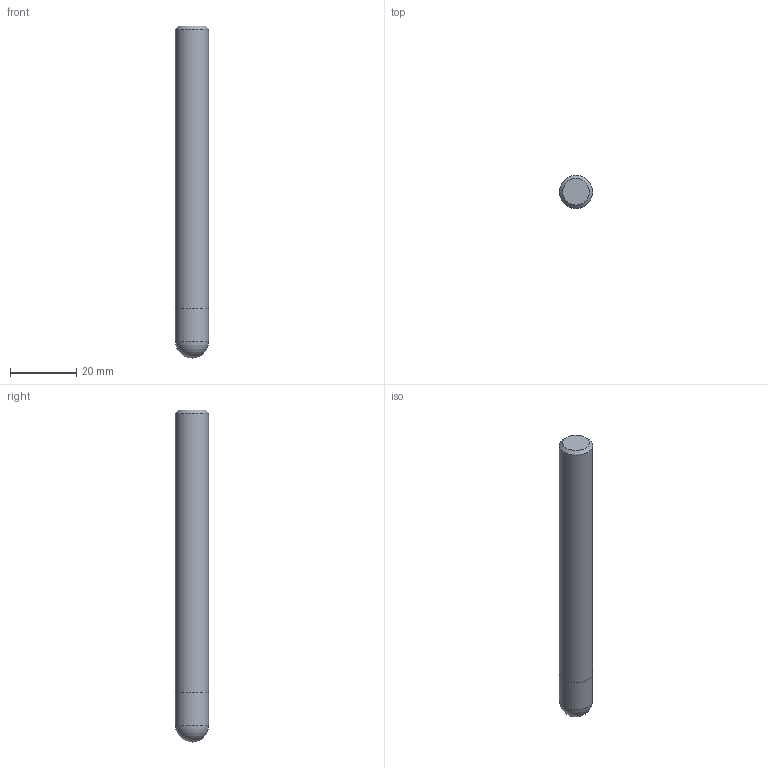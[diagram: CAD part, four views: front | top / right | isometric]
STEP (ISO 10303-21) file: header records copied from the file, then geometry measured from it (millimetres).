
FILE_DESCRIPTION((''),'2;1');
FILE_NAME('C:\Users\nsx150\AppData\Local\Temp\Mastercam 2021\98T1Q6BTT1\TEMP.step','2021-10-21T14:55:36',(''),(''),'STEP Write','Mastercam 2021 ... CNC Software, Inc.','');
FILE_SCHEMA(('AUTOMOTIVE_DESIGN'));
Length unit declared in the file: millimetre
Products named in the file (1): None
Bounding box: 10 x 10 x 100 mm (x, y, z)
Volume: 7708.4 mm3; surface area: 3357.5 mm2
Topology: 2 solids, 2 shells, 7 faces, 10 edges, 6 vertices
Faces by surface type: plane 3, cylinder 2, sphere 1, cone 1
Full cylindrical faces by diameter (mm): 10 x2
Entity records: 169 total; most frequent: DIRECTION 28, CARTESIAN_POINT 19, AXIS2_PLACEMENT_3D 14, ORIENTED_EDGE 10, EDGE_LOOP 10, STYLED_ITEM 10, ADVANCED_FACE 7, VERTEX_POINT 5
